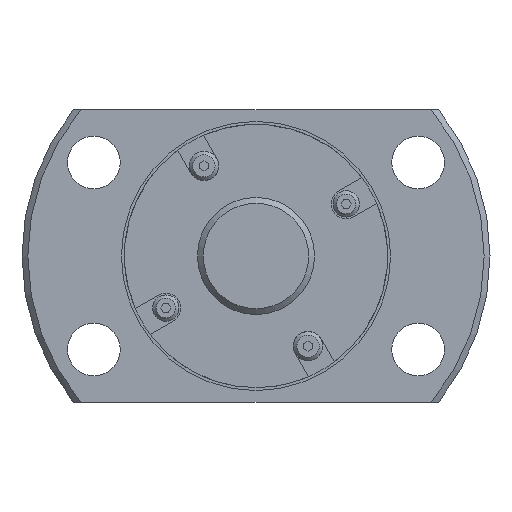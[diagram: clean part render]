
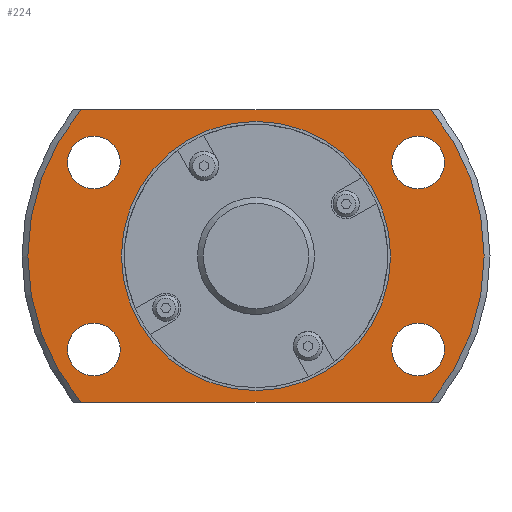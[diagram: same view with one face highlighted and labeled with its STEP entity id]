
A CAD part, left-side view. The second image highlights one B-rep face of the part: STEP entity #224.
In plain terms, the highlighted planar face has unit normal (-1, 0, 0).
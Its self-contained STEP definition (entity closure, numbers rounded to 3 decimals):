
#224 = ADVANCED_FACE( '', ( #500, #501, #502, #503, #504, #505 ), #506, .F. );
#500 = FACE_OUTER_BOUND( '', #866, .T. );
#501 = FACE_BOUND( '', #867, .T. );
#502 = FACE_BOUND( '', #868, .T. );
#503 = FACE_BOUND( '', #869, .T. );
#504 = FACE_BOUND( '', #870, .T. );
#505 = FACE_BOUND( '', #871, .T. );
#506 = PLANE( '', #872 );
#866 = EDGE_LOOP( '', ( #1355, #1356, #1357, #1358 ) );
#867 = EDGE_LOOP( '', ( #1359 ) );
#868 = EDGE_LOOP( '', ( #1360 ) );
#869 = EDGE_LOOP( '', ( #1361 ) );
#870 = EDGE_LOOP( '', ( #1362 ) );
#871 = EDGE_LOOP( '', ( #1363 ) );
#872 = AXIS2_PLACEMENT_3D( '', #1364, #1365, #1366 );
#1355 = ORIENTED_EDGE( '', *, *, #2059, .F. );
#1356 = ORIENTED_EDGE( '', *, *, #1998, .T. );
#1357 = ORIENTED_EDGE( '', *, *, #2060, .F. );
#1358 = ORIENTED_EDGE( '', *, *, #2039, .T. );
#1359 = ORIENTED_EDGE( '', *, *, #1957, .T. );
#1360 = ORIENTED_EDGE( '', *, *, #2061, .T. );
#1361 = ORIENTED_EDGE( '', *, *, #1954, .T. );
#1362 = ORIENTED_EDGE( '', *, *, #2062, .T. );
#1363 = ORIENTED_EDGE( '', *, *, #2063, .T. );
#1364 = CARTESIAN_POINT( '', ( 13., 11.25, 0. ) );
#1365 = DIRECTION( '', ( 1., 0., 0. ) );
#1366 = DIRECTION( '', ( 0., 0., -1. ) );
#1954 = EDGE_CURVE( '', #2276, #2276, #2277, .T. );
#1957 = EDGE_CURVE( '', #2281, #2281, #2282, .T. );
#1998 = EDGE_CURVE( '', #2342, #2354, #2356, .T. );
#2039 = EDGE_CURVE( '', #2412, #2421, #2423, .T. );
#2059 = EDGE_CURVE( '', #2342, #2421, #2453, .T. );
#2060 = EDGE_CURVE( '', #2412, #2354, #2454, .T. );
#2061 = EDGE_CURVE( '', #2455, #2455, #2456, .T. );
#2062 = EDGE_CURVE( '', #2457, #2457, #2458, .T. );
#2063 = EDGE_CURVE( '', #2459, #2459, #2460, .T. );
#2276 = VERTEX_POINT( '', #2740 );
#2277 = CIRCLE( '', #2741, 2.25 );
#2281 = VERTEX_POINT( '', #2745 );
#2282 = CIRCLE( '', #2746, 2.25 );
#2342 = VERTEX_POINT( '', #2824 );
#2354 = VERTEX_POINT( '', #2848 );
#2356 = LINE( '', #2853, #2854 );
#2412 = VERTEX_POINT( '', #2922 );
#2421 = VERTEX_POINT( '', #2942 );
#2423 = LINE( '', #2947, #2948 );
#2453 = CIRCLE( '', #2990, 19.5 );
#2454 = CIRCLE( '', #2991, 19.5 );
#2455 = VERTEX_POINT( '', #2992 );
#2456 = CIRCLE( '', #2993, 2.25 );
#2457 = VERTEX_POINT( '', #2994 );
#2458 = CIRCLE( '', #2995, 2.25 );
#2459 = VERTEX_POINT( '', #2996 );
#2460 = CIRCLE( '', #2997, 11.25 );
#2740 = CARTESIAN_POINT( '', ( 13., 13.856, -10.25 ) );
#2741 = AXIS2_PLACEMENT_3D( '', #3306, #3307, #3308 );
#2745 = CARTESIAN_POINT( '', ( 13., -13.856, -10.25 ) );
#2746 = AXIS2_PLACEMENT_3D( '', #3312, #3313, #3314 );
#2824 = CARTESIAN_POINT( '', ( 13., 14.967, -12.5 ) );
#2848 = CARTESIAN_POINT( '', ( 13., -14.967, -12.5 ) );
#2853 = CARTESIAN_POINT( '', ( 13., 11.25, -12.5 ) );
#2854 = VECTOR( '', #3363, 1000. );
#2922 = CARTESIAN_POINT( '', ( 13., -14.967, 12.5 ) );
#2942 = CARTESIAN_POINT( '', ( 13., 14.967, 12.5 ) );
#2947 = CARTESIAN_POINT( '', ( 13., 11.25, 12.5 ) );
#2948 = VECTOR( '', #3414, 1000. );
#2990 = AXIS2_PLACEMENT_3D( '', #3433, #3434, #3435 );
#2991 = AXIS2_PLACEMENT_3D( '', #3436, #3437, #3438 );
#2992 = CARTESIAN_POINT( '', ( 13., -13.856, 5.75 ) );
#2993 = AXIS2_PLACEMENT_3D( '', #3439, #3440, #3441 );
#2994 = CARTESIAN_POINT( '', ( 13., 13.856, 5.75 ) );
#2995 = AXIS2_PLACEMENT_3D( '', #3442, #3443, #3444 );
#2996 = CARTESIAN_POINT( '', ( 13., 0., -11.25 ) );
#2997 = AXIS2_PLACEMENT_3D( '', #3445, #3446, #3447 );
#3306 = CARTESIAN_POINT( '', ( 13., 13.856, -8. ) );
#3307 = DIRECTION( '', ( 1., 0., 0. ) );
#3308 = DIRECTION( '', ( 0., 0., -1. ) );
#3312 = CARTESIAN_POINT( '', ( 13., -13.856, -8. ) );
#3313 = DIRECTION( '', ( 1., 0., 0. ) );
#3314 = DIRECTION( '', ( 0., 0., -1. ) );
#3363 = DIRECTION( '', ( 0., -1., 0. ) );
#3414 = DIRECTION( '', ( 0., 1., 0. ) );
#3433 = CARTESIAN_POINT( '', ( 13., 0., 0. ) );
#3434 = DIRECTION( '', ( 1., 0., 0. ) );
#3435 = DIRECTION( '', ( 0., 0., -1. ) );
#3436 = CARTESIAN_POINT( '', ( 13., 0., 0. ) );
#3437 = DIRECTION( '', ( 1., 0., 0. ) );
#3438 = DIRECTION( '', ( 0., 0., -1. ) );
#3439 = CARTESIAN_POINT( '', ( 13., -13.856, 8. ) );
#3440 = DIRECTION( '', ( 1., 0., 0. ) );
#3441 = DIRECTION( '', ( 0., 0., -1. ) );
#3442 = CARTESIAN_POINT( '', ( 13., 13.856, 8. ) );
#3443 = DIRECTION( '', ( 1., 0., 0. ) );
#3444 = DIRECTION( '', ( 0., 0., -1. ) );
#3445 = CARTESIAN_POINT( '', ( 13., 0., 0. ) );
#3446 = DIRECTION( '', ( 1., 0., 0. ) );
#3447 = DIRECTION( '', ( 0., 0., -1. ) );
